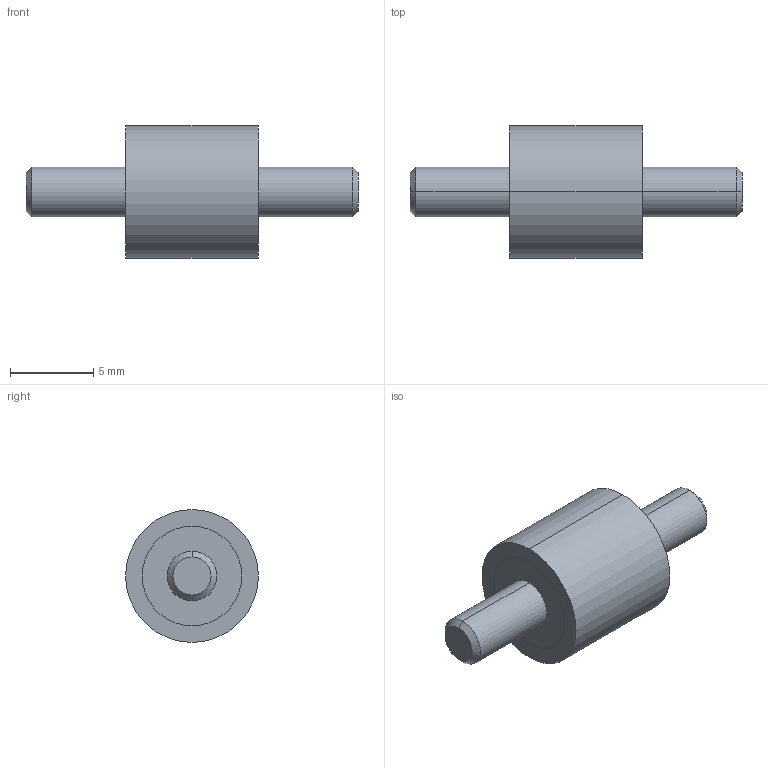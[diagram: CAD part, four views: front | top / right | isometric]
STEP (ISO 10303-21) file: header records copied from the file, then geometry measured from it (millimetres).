
FILE_DESCRIPTION (( 'STEP AP214' ), '1' );
FILE_NAME ('351-8-8-M3-SS-55.step', '2025-07-23T09:52:11', ( '' ), ( '' ), 'SwSTEP 2.0', 'SolidWorks 2022', '' );
FILE_SCHEMA (( 'AUTOMOTIVE_DESIGN' ));
Length unit declared in the file: millimetre
Products named in the file (1): 351-8-8-M3-SS-55
Bounding box: 20 x 8 x 8 mm (x, y, z)
Volume: 485.5 mm3; surface area: 411.1 mm2
Topology: 1 solids, 1 shells, 20 faces, 38 edges, 24 vertices
Faces by surface type: cylinder 10, plane 6, cone 4
Entity records: 636 total; most frequent: DIRECTION 104, CARTESIAN_POINT 83, ORIENTED_EDGE 76, AXIS2_PLACEMENT_3D 45, EDGE_CURVE 38, CIRCLE 24, EDGE_LOOP 24, VERTEX_POINT 24
